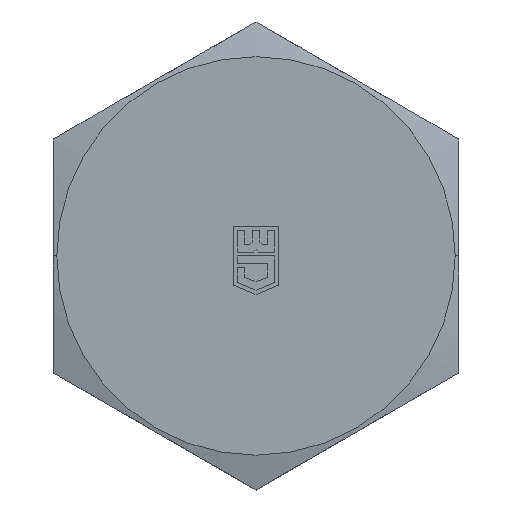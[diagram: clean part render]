
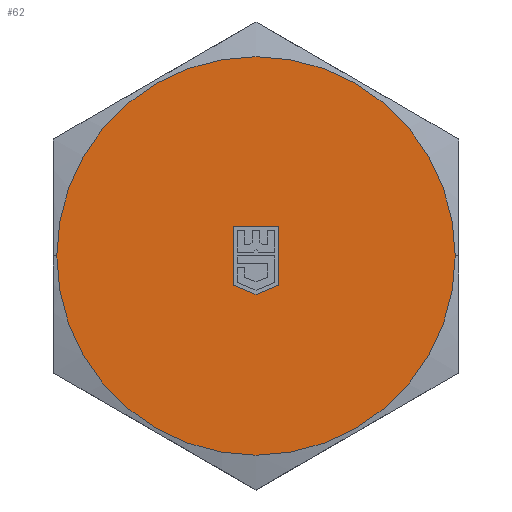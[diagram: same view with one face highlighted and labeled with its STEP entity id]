
A CAD part, top view. The second image highlights one B-rep face of the part: STEP entity #62.
In plain terms, the highlighted planar face has unit normal (0, 0, 1).
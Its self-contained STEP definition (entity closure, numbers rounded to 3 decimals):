
#39 = EDGE_CURVE ( 'NONE', #77, #102, #439, .T. ) ;
#56 = EDGE_LOOP ( 'NONE', ( #106, #79 ) ) ;
#62 = ADVANCED_FACE ( 'NONE', ( #769, #768 ), #767, .F. ) ;
#67 = ORIENTED_EDGE ( 'NONE', *, *, #97, .T. ) ;
#68 = VERTEX_POINT ( 'NONE', #747 ) ;
#70 = EDGE_CURVE ( 'NONE', #68, #77, #745, .T. ) ;
#72 = EDGE_LOOP ( 'NONE', ( #101, #67, #84, #76, #78 ) ) ;
#73 = EDGE_CURVE ( 'NONE', #369, #368, #809, .T. ) ;
#74 = EDGE_CURVE ( 'NONE', #102, #75, #804, .T. ) ;
#75 = VERTEX_POINT ( 'NONE', #800 ) ;
#76 = ORIENTED_EDGE ( 'NONE', *, *, #70, .T. ) ;
#77 = VERTEX_POINT ( 'NONE', #799 ) ;
#78 = ORIENTED_EDGE ( 'NONE', *, *, #39, .T. ) ;
#79 = ORIENTED_EDGE ( 'NONE', *, *, #73, .F. ) ;
#84 = ORIENTED_EDGE ( 'NONE', *, *, #85, .T. ) ;
#85 = EDGE_CURVE ( 'NONE', #105, #68, #783, .T. ) ;
#97 = EDGE_CURVE ( 'NONE', #75, #105, #850, .T. ) ;
#101 = ORIENTED_EDGE ( 'NONE', *, *, #74, .T. ) ;
#102 = VERTEX_POINT ( 'NONE', #863 ) ;
#105 = VERTEX_POINT ( 'NONE', #899 ) ;
#106 = ORIENTED_EDGE ( 'NONE', *, *, #367, .F. ) ;
#367 = EDGE_CURVE ( 'NONE', #368, #369, #1188, .T. ) ;
#368 = VERTEX_POINT ( 'NONE', #1184 ) ;
#369 = VERTEX_POINT ( 'NONE', #1183 ) ;
#436 = DIRECTION ( 'NONE',  ( -0.924, -0.383, 0. ) ) ;
#437 = VECTOR ( 'NONE', #436, 1000. ) ;
#438 = CARTESIAN_POINT ( 'NONE',  ( 0., -2.28, 0. ) ) ;
#439 = LINE ( 'NONE', #438, #437 ) ;
#742 = DIRECTION ( 'NONE',  ( 0., -1., 0. ) ) ;
#743 = VECTOR ( 'NONE', #742, 1000. ) ;
#744 = CARTESIAN_POINT ( 'NONE',  ( 1.35, 1.72, 0. ) ) ;
#745 = LINE ( 'NONE', #744, #743 ) ;
#747 = CARTESIAN_POINT ( 'NONE',  ( 1.35, 1.72, 0. ) ) ;
#763 = DIRECTION ( 'NONE',  ( -1., 0., 0. ) ) ;
#764 = DIRECTION ( 'NONE',  ( 0., 0., -1. ) ) ;
#765 = CARTESIAN_POINT ( 'NONE',  ( 0., -13.856, 0. ) ) ;
#766 = AXIS2_PLACEMENT_3D ( 'NONE', #765, #764, #763 ) ;
#767 = PLANE ( 'NONE',  #766 ) ;
#768 = FACE_BOUND ( 'NONE', #72, .T. ) ;
#769 = FACE_OUTER_BOUND ( 'NONE', #56, .T. ) ;
#780 = DIRECTION ( 'NONE',  ( 1., 0., 0. ) ) ;
#781 = VECTOR ( 'NONE', #780, 1000. ) ;
#782 = CARTESIAN_POINT ( 'NONE',  ( -1.35, 1.72, 0. ) ) ;
#783 = LINE ( 'NONE', #782, #781 ) ;
#799 = CARTESIAN_POINT ( 'NONE',  ( 1.35, -1.721, 0. ) ) ;
#800 = CARTESIAN_POINT ( 'NONE',  ( -1.35, -1.721, 0. ) ) ;
#801 = DIRECTION ( 'NONE',  ( -0.924, 0.383, 0. ) ) ;
#802 = VECTOR ( 'NONE', #801, 1000. ) ;
#803 = CARTESIAN_POINT ( 'NONE',  ( 0., -2.28, 0. ) ) ;
#804 = LINE ( 'NONE', #803, #802 ) ;
#805 = DIRECTION ( 'NONE',  ( -1., 0., 0. ) ) ;
#806 = DIRECTION ( 'NONE',  ( 0., 0., -1. ) ) ;
#807 = CARTESIAN_POINT ( 'NONE',  ( 0., 0., 0. ) ) ;
#808 = AXIS2_PLACEMENT_3D ( 'NONE', #807, #806, #805 ) ;
#809 = CIRCLE ( 'NONE', #808, 11.8 ) ;
#850 = LINE ( 'NONE', #1025, #1024 ) ;
#863 = CARTESIAN_POINT ( 'NONE',  ( 0., -2.28, 0. ) ) ;
#899 = CARTESIAN_POINT ( 'NONE',  ( -1.35, 1.72, 0. ) ) ;
#1023 = DIRECTION ( 'NONE',  ( 0., 1., 0. ) ) ;
#1024 = VECTOR ( 'NONE', #1023, 1000. ) ;
#1025 = CARTESIAN_POINT ( 'NONE',  ( -1.35, -1.721, 0. ) ) ;
#1183 = CARTESIAN_POINT ( 'NONE',  ( 11.8, 0., 0. ) ) ;
#1184 = CARTESIAN_POINT ( 'NONE',  ( -11.8, 0., 0. ) ) ;
#1185 = DIRECTION ( 'NONE',  ( -1., 0., 0. ) ) ;
#1186 = DIRECTION ( 'NONE',  ( 0., 0., -1. ) ) ;
#1187 = AXIS2_PLACEMENT_3D ( 'NONE', #1229, #1186, #1185 ) ;
#1188 = CIRCLE ( 'NONE', #1187, 11.8 ) ;
#1229 = CARTESIAN_POINT ( 'NONE',  ( 0., 0., 0. ) ) ;
